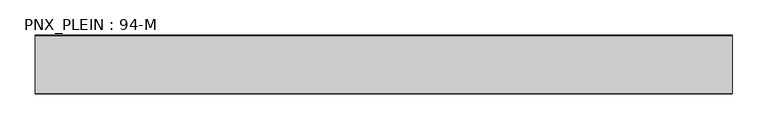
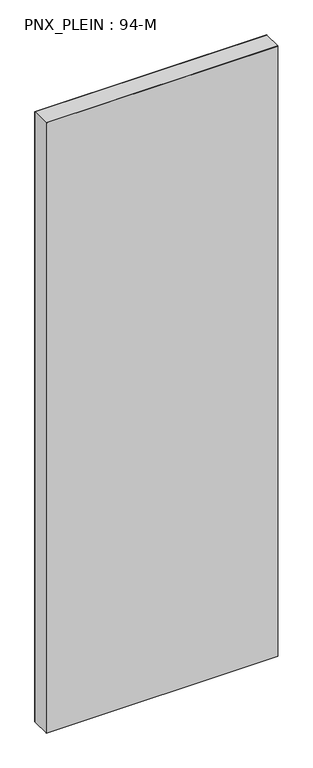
"""IFC4 building model written with IfcOpenShell, lengths in millimetres: plate geometry, PNX_PLEIN : 94-M."""

from ifc_helpers import new_model, si_unit, origin, origin_with_axes, place, context, project, spatial, polyline, outline, extrude, source, transform, mapped, element, save


def pnx_plein_94_m_e0bbc39c(model_context):
    return source(origin(), model_context, "Body", "SweptSolid", [
        extrude(outline(polyline([(491.9, -40.5), (-491.9, -40.5), (-491.9, 40.5), (491.9, 40.5), (491.9, -40.5)])), origin_with_axes(), (0.0, 0.0, 1.0), 2739.0),
        extrude(outline(polyline([(491.9, -41.5), (-491.9, -41.5), (-491.9, -40.5), (491.9, -40.5), (491.9, -41.5)])), origin_with_axes(), (0.0, 0.0, 1.0), 2739.0),
        extrude(outline(polyline([(491.9, 40.5), (-491.9, 40.5), (-491.9, 41.5), (491.9, 41.5), (491.9, 40.5)])), origin_with_axes(), (0.0, 0.0, 1.0), 2739.0),
    ])


if __name__ == "__main__":
    model = new_model("IFC4")
    model_context = context("Model", 3, world=origin())
    ifc_project = project(units=[si_unit("LENGTHUNIT", "METRE", prefix="MILLI")], contexts=[model_context])
    site = spatial("IfcSite", under=ifc_project)
    building = spatial("IfcBuilding", under=site)
    placement = place(None, origin())
    pnx_plein_94_m_shape = pnx_plein_94_m_e0bbc39c(model_context)
    element("IfcPlate", 1, ObjectType="PNX_PLEIN : 94-M", at=placement, inside=building, context=model_context, shape_type="MappedRepresentation", body=[
        mapped(pnx_plein_94_m_shape, transform((0.0, 0.0, 0.0), x_axis=(1.0, 0.0, 0.0), y_axis=(0.0, 1.0, 0.0), z_axis=(0.0, 0.0, 1.0))),
    ])
    save(model, "model.ifc")
